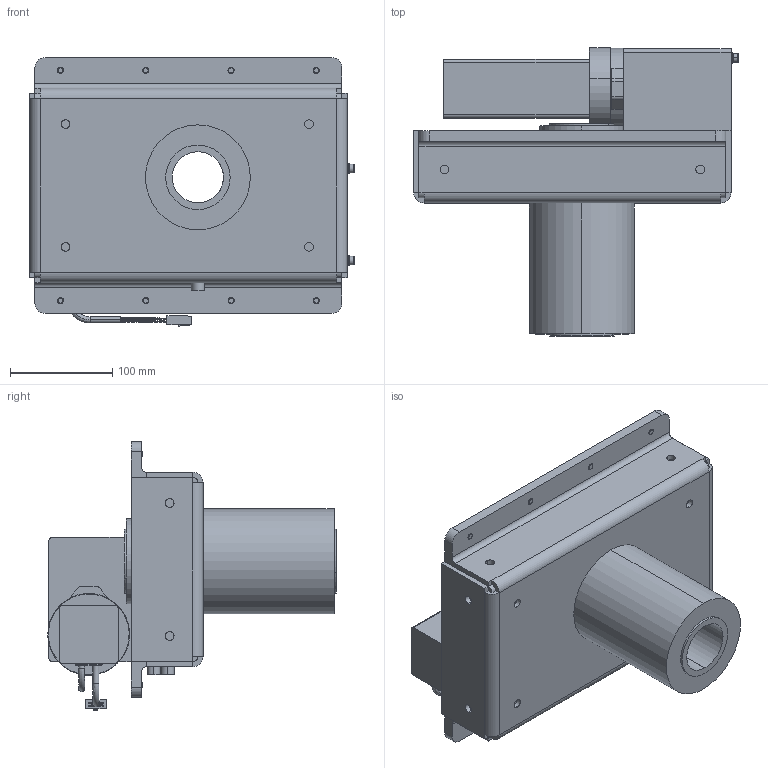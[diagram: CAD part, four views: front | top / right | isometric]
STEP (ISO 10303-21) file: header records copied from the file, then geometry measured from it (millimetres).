
FILE_DESCRIPTION (( 'STEP AP214' ), '1' );
FILE_NAME ('P-087-030-rev-A-BoxWRVS.STEP', '2023-09-26T14:48:57', ( '' ), ( '' ), 'SwSTEP 2.0', 'SolidWorks 2023', '' );
FILE_SCHEMA (( 'AUTOMOTIVE_DESIGN' ));
Length unit declared in the file: millimetre
Products named in the file (1): P-087-030-rev-A-BoxWRVS
Bounding box: 317 x 281.61 x 262.72 mm (x, y, z)
Volume: 6645144.8 mm3; surface area: 380330.4 mm2
Topology: 1 solids, 3 shells, 422 faces, 989 edges, 618 vertices
Faces by surface type: plane 196, cylinder 146, bspline 36, cone 32, torus 12
Entity records: 13348 total; most frequent: CARTESIAN_POINT 3654, DIRECTION 2027, ORIENTED_EDGE 1962, EDGE_CURVE 981, AXIS2_PLACEMENT_3D 763, VERTEX_POINT 618, EDGE_LOOP 507, VECTOR 501
